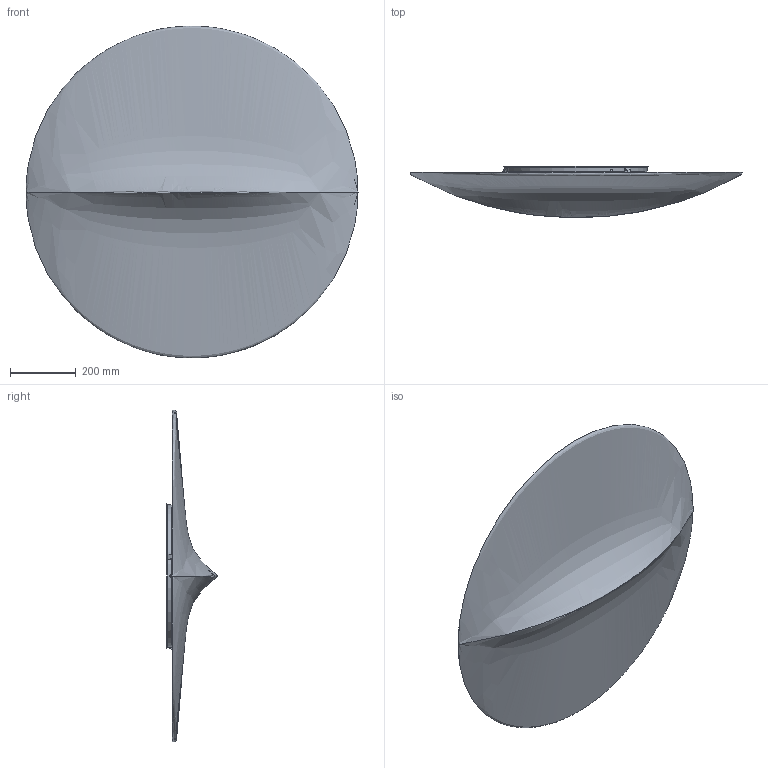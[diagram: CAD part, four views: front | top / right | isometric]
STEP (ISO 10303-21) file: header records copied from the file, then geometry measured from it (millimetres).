
FILE_DESCRIPTION (( 'STEP AP203' ), '1' );
FILE_NAME ('PL NELLY 100-PER 3D-Rev 01.STEP', '2025-06-26T13:22:11', ( '' ), ( '' ), 'SwSTEP 2.0', 'SolidWorks 2024', '' );
FILE_SCHEMA (( 'CONFIG_CONTROL_DESIGN' ));
Length unit declared in the file: millimetre
Products named in the file (6): WSMCVAA4.2-95-0141_Tapping screw DIN 7049-ST4.2x9.5-F-H-C; PL NELLY 100-PER 3D-Rev 01; TESSUTO^PL NELLY 100-PER 3D-Rev 01; MOLLA AG500-05; AG-500 NUOVA CON GANCI METALLO; WSCM1G0005-0121-00
Assembly tree (9 placements, depth 3):
  PL NELLY 100-PER 3D-Rev 01
    AG-500 NUOVA CON GANCI METALLO
      WSCM1G0005-0121-00
      MOLLA AG500-05  x3
      WSMCVAA4.2-95-0141_Tapping screw DIN 7049-ST4.2x9.5-F-H-C  x3
    TESSUTO^PL NELLY 100-PER 3D-Rev 01
Bounding box: 1010 x 154.99 x 1009.87 mm (x, y, z)
Volume: 126676.7 mm3; surface area: 1220364.5 mm2
Topology: 7 solids, 8 shells, 772 faces, 1893 edges, 1172 vertices
Faces by surface type: plane 254, cylinder 230, torus 226, bspline 38, cone 18, sphere 6
Entity records: 22860 total; most frequent: CARTESIAN_POINT 7818, DIRECTION 3392, ORIENTED_EDGE 2800, AXIS2_PLACEMENT_3D 1492, EDGE_CURVE 1401, CIRCLE 936, VERTEX_POINT 880, EDGE_LOOP 710
